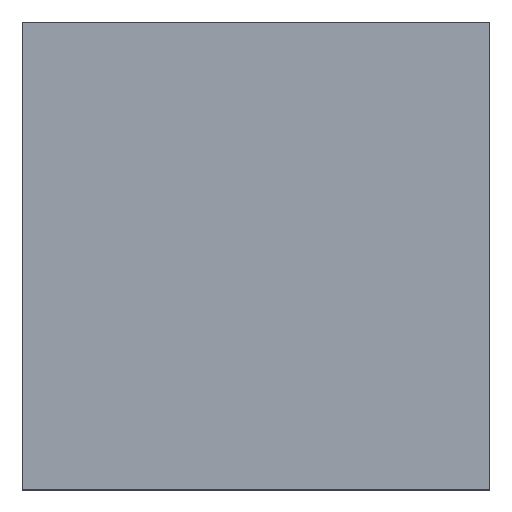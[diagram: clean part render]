
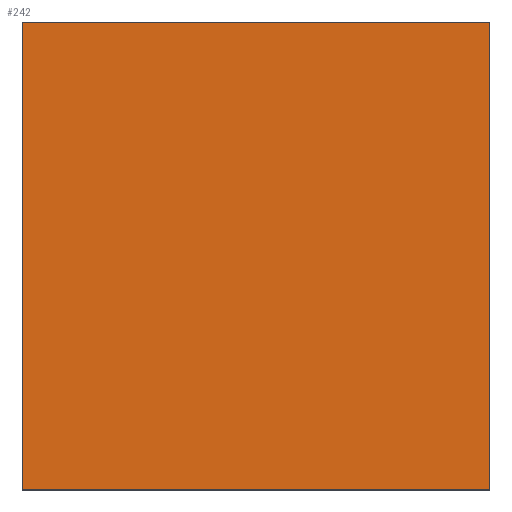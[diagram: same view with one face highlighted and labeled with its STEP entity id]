
A CAD part, top view. The second image highlights one B-rep face of the part: STEP entity #242.
In plain terms, the highlighted planar face has unit normal (0, 0, 1).
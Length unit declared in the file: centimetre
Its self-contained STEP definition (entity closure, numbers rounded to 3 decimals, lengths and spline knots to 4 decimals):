
#25 = CARTESIAN_POINT ( 'NONE',  ( 0., 1000., 1000. ) ) ;
#58 = VECTOR ( 'NONE', #1016, 100. ) ;
#127 = AXIS2_PLACEMENT_3D ( 'NONE', #958, #272, #363 ) ;
#158 = CARTESIAN_POINT ( 'NONE',  ( 1000., 1000., 1000. ) ) ;
#242 = ADVANCED_FACE ( 'NONE', ( #900 ), #392, .T. ) ;
#252 = EDGE_CURVE ( 'NONE', #1023, #463, #1008, .T. ) ;
#263 = ORIENTED_EDGE ( 'NONE', *, *, #510, .T. ) ;
#266 = VECTOR ( 'NONE', #450, 100. ) ;
#272 = DIRECTION ( 'NONE',  ( 0., 0., 1. ) ) ;
#292 = LINE ( 'NONE', #545, #1071 ) ;
#321 = ORIENTED_EDGE ( 'NONE', *, *, #757, .T. ) ;
#338 = LINE ( 'NONE', #669, #58 ) ;
#363 = DIRECTION ( 'NONE',  ( 1., 0., 0. ) ) ;
#382 = CARTESIAN_POINT ( 'NONE',  ( 1000., 0., 1000. ) ) ;
#392 = PLANE ( 'NONE',  #127 ) ;
#450 = DIRECTION ( 'NONE',  ( 0., -1., 0. ) ) ;
#463 = VERTEX_POINT ( 'NONE', #634 ) ;
#473 = VERTEX_POINT ( 'NONE', #627 ) ;
#488 = VERTEX_POINT ( 'NONE', #1045 ) ;
#510 = EDGE_CURVE ( 'NONE', #473, #488, #692, .T. ) ;
#538 = ORIENTED_EDGE ( 'NONE', *, *, #925, .T. ) ;
#545 = CARTESIAN_POINT ( 'NONE',  ( 0., 0., 1000. ) ) ;
#607 = DIRECTION ( 'NONE',  ( 1., 0., 0. ) ) ;
#617 = DIRECTION ( 'NONE',  ( 0., 1., 0. ) ) ;
#627 = CARTESIAN_POINT ( 'NONE',  ( 0., 1000., 1000. ) ) ;
#633 = EDGE_LOOP ( 'NONE', ( #263, #538, #756, #321 ) ) ;
#634 = CARTESIAN_POINT ( 'NONE',  ( 1000., 1000., 1000. ) ) ;
#669 = CARTESIAN_POINT ( 'NONE',  ( 0., 1000., 1000. ) ) ;
#692 = LINE ( 'NONE', #25, #266 ) ;
#756 = ORIENTED_EDGE ( 'NONE', *, *, #252, .T. ) ;
#757 = EDGE_CURVE ( 'NONE', #463, #473, #338, .T. ) ;
#900 = FACE_OUTER_BOUND ( 'NONE', #633, .T. ) ;
#925 = EDGE_CURVE ( 'NONE', #488, #1023, #292, .T. ) ;
#934 = VECTOR ( 'NONE', #617, 100. ) ;
#958 = CARTESIAN_POINT ( 'NONE',  ( 0., 0., 1000. ) ) ;
#1008 = LINE ( 'NONE', #158, #934 ) ;
#1016 = DIRECTION ( 'NONE',  ( -1., 0., 0. ) ) ;
#1023 = VERTEX_POINT ( 'NONE', #382 ) ;
#1045 = CARTESIAN_POINT ( 'NONE',  ( 0., 0., 1000. ) ) ;
#1071 = VECTOR ( 'NONE', #607, 100. ) ;
